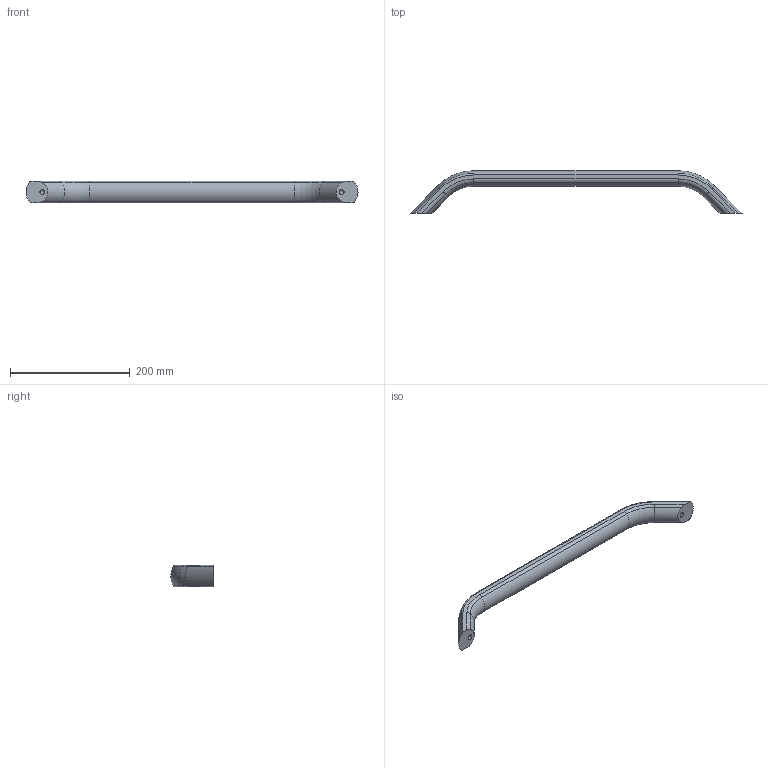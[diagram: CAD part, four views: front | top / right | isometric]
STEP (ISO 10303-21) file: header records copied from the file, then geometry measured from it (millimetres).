
FILE_DESCRIPTION( ( 'STEP AP203' ), '1' );
FILE_NAME( 'C:/Temp/Ganter_Step_05_03_2020/data/1_2/gn_428/gn_428_a/Cabinet U-handle GN 428-AL-36-500-A-EL.stp', '2020-03-05T10:11:31', ( 'License CC BY-ND 4.0' ), ( 'CADENAS' ), ' ', 'PARTsolutions', ' ' );
FILE_SCHEMA( ( 'CONFIG_CONTROL_DESIGN' ) );
Length unit declared in the file: millimetre
Products named in the file (1): _Cabinet U-handle GN 428-AL-36-500-A-EL
Bounding box: 554.73 x 70.91 x 36 mm (x, y, z)
Volume: 429993 mm3; surface area: 60216.9 mm2
Topology: 1 solids, 1 shells, 38 faces, 90 edges, 54 vertices
Faces by surface type: cylinder 20, torus 12, plane 4, cone 2
Full cylindrical faces by diameter (mm): 8.376 x2
Entity records: 1120 total; most frequent: DIRECTION 218, CARTESIAN_POINT 177, ORIENTED_EDGE 168, AXIS2_PLACEMENT_3D 95, EDGE_CURVE 84, VERTEX_POINT 54, CIRCLE 44, EDGE_LOOP 42
